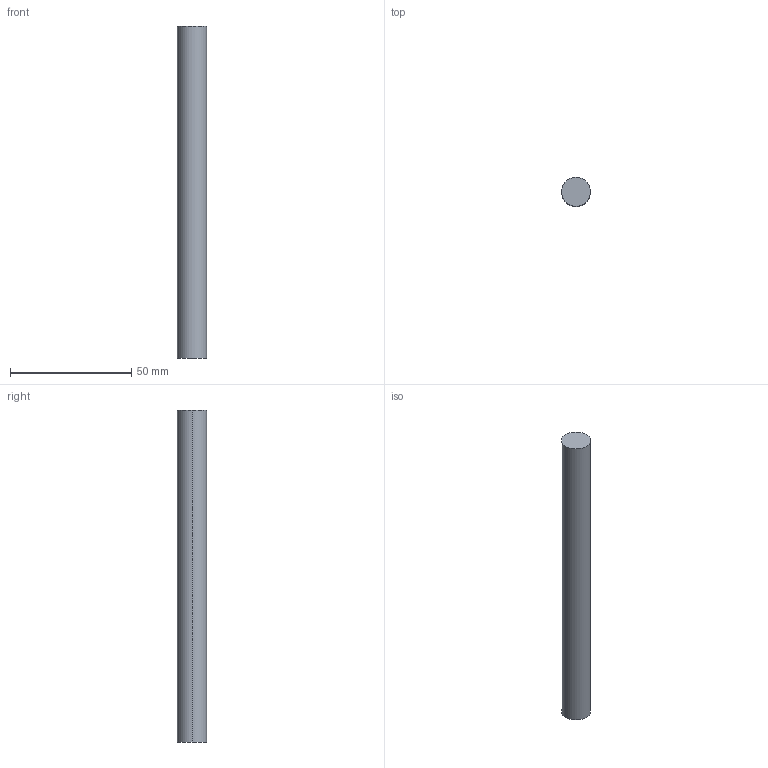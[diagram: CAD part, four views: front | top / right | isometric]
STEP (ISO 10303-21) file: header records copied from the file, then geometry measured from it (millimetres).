
FILE_DESCRIPTION (( 'STEP AP214' ), '1' );
FILE_NAME ('Innenschub H182 - S16_S17 - 250.step', '2010-09-07T14:55:56', ( 'grass' ), ( '' ), 'SwSTEP 2.0', 'SolidWorks 2010', '' );
FILE_SCHEMA (( 'AUTOMOTIVE_DESIGN' ));
Length unit declared in the file: millimetre
Products named in the file (1): Innenschub H182 - S16_S17 - 250
Bounding box: 12 x 12 x 137 mm (x, y, z)
Volume: 15494.3 mm3; surface area: 5391 mm2
Topology: 1 solids, 1 shells, 4 faces, 6 edges, 4 vertices
Faces by surface type: cylinder 2, plane 2
Entity records: 128 total; most frequent: DIRECTION 20, CARTESIAN_POINT 15, ORIENTED_EDGE 12, AXIS2_PLACEMENT_3D 9, EDGE_CURVE 6, ADVANCED_FACE 4, FACE_OUTER_BOUND 4, CIRCLE 4
